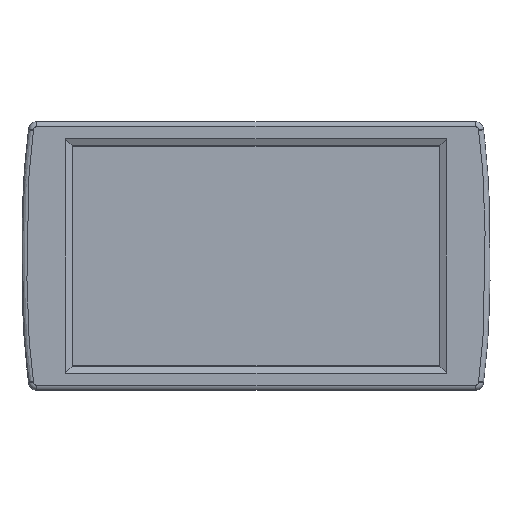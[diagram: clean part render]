
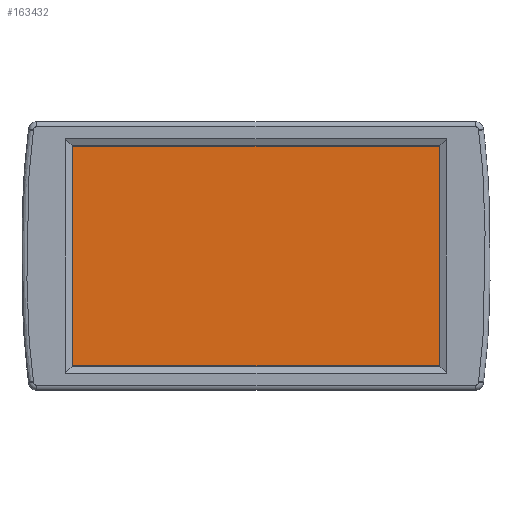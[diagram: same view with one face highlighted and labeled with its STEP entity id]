
A CAD part, front view. The second image highlights one B-rep face of the part: STEP entity #163432.
In plain terms, the highlighted planar face has unit normal (0, -1, 0).
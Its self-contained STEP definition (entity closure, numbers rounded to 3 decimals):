
#1763 = EDGE_CURVE ( 'NONE', #181535, #228244, #93045, .T. ) ;
#14178 = PLANE ( 'NONE',  #107256 ) ;
#14542 = ORIENTED_EDGE ( 'NONE', *, *, #161666, .T. ) ;
#17713 = ORIENTED_EDGE ( 'NONE', *, *, #105586, .T. ) ;
#21953 = CARTESIAN_POINT ( 'NONE',  ( -120.79, -23.736, 66.547 ) ) ;
#34995 = LINE ( 'NONE', #124320, #79184 ) ;
#42419 = VERTEX_POINT ( 'NONE', #21953 ) ;
#44740 = CARTESIAN_POINT ( 'NONE',  ( -120.79, -23.736, -66.453 ) ) ;
#47615 = EDGE_CURVE ( 'NONE', #228244, #138138, #182112, .T. ) ;
#79184 = VECTOR ( 'NONE', #143191, 1000. ) ;
#82064 = VECTOR ( 'NONE', #229326, 1000. ) ;
#84138 = VECTOR ( 'NONE', #210918, 1000. ) ;
#93045 = LINE ( 'NONE', #44740, #237152 ) ;
#98203 = FACE_OUTER_BOUND ( 'NONE', #146429, .T. ) ;
#104068 = CARTESIAN_POINT ( 'NONE',  ( -120.79, -23.736, -66.453 ) ) ;
#105586 = EDGE_CURVE ( 'NONE', #138138, #42419, #184204, .T. ) ;
#107256 = AXIS2_PLACEMENT_3D ( 'NONE', #108651, #240187, #127733 ) ;
#108651 = CARTESIAN_POINT ( 'NONE',  ( -10.39, -23.736, 2.047 ) ) ;
#124320 = CARTESIAN_POINT ( 'NONE',  ( -120.79, -23.736, -66.453 ) ) ;
#124418 = CARTESIAN_POINT ( 'NONE',  ( 101.81, -23.736, 66.547 ) ) ;
#127733 = DIRECTION ( 'NONE',  ( 0., 0., 1. ) ) ;
#138138 = VERTEX_POINT ( 'NONE', #124418 ) ;
#143191 = DIRECTION ( 'NONE',  ( 0., 0., -1. ) ) ;
#146429 = EDGE_LOOP ( 'NONE', ( #17713, #14542, #176541, #235367 ) ) ;
#161666 = EDGE_CURVE ( 'NONE', #42419, #181535, #34995, .T. ) ;
#163432 = ADVANCED_FACE ( 'NONE', ( #98203 ), #14178, .T. ) ;
#176467 = DIRECTION ( 'NONE',  ( 1., 0., 0. ) ) ;
#176541 = ORIENTED_EDGE ( 'NONE', *, *, #1763, .T. ) ;
#181535 = VERTEX_POINT ( 'NONE', #104068 ) ;
#182112 = LINE ( 'NONE', #210540, #82064 ) ;
#184204 = LINE ( 'NONE', #229717, #84138 ) ;
#210540 = CARTESIAN_POINT ( 'NONE',  ( 101.81, -23.736, -66.453 ) ) ;
#210918 = DIRECTION ( 'NONE',  ( -1., 0., 0. ) ) ;
#211862 = CARTESIAN_POINT ( 'NONE',  ( 101.81, -23.736, -66.453 ) ) ;
#228244 = VERTEX_POINT ( 'NONE', #211862 ) ;
#229326 = DIRECTION ( 'NONE',  ( 0., 0., 1. ) ) ;
#229717 = CARTESIAN_POINT ( 'NONE',  ( -120.79, -23.736, 66.547 ) ) ;
#235367 = ORIENTED_EDGE ( 'NONE', *, *, #47615, .T. ) ;
#237152 = VECTOR ( 'NONE', #176467, 1000. ) ;
#240187 = DIRECTION ( 'NONE',  ( 0., -1., 0. ) ) ;
